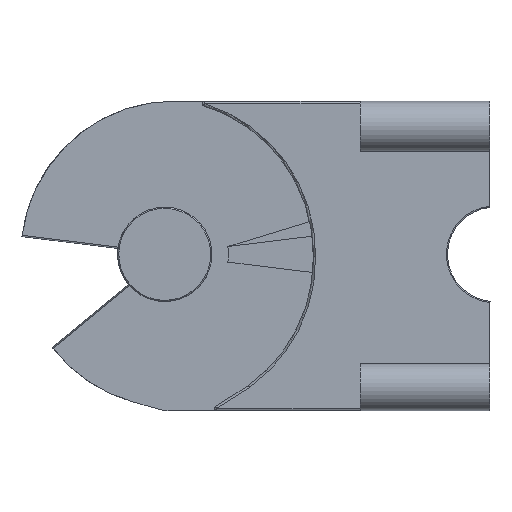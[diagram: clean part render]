
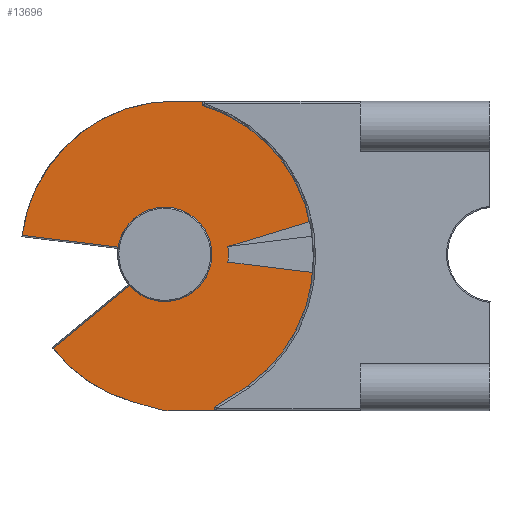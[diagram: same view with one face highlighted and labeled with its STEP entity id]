
A CAD part, left-side view. The second image highlights one B-rep face of the part: STEP entity #13696.
In plain terms, the highlighted free-form (B-spline) face has degree [1, 1] with [2, 2] control points.
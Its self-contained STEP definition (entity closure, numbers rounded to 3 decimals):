
#11969=CARTESIAN_POINT('',(98.837,139.468,75.028));
#11970=VERTEX_POINT('',#11969);
#11977=CARTESIAN_POINT('',(105.249,139.468,75.028));
#11978=VERTEX_POINT('',#11977);
#11979=CARTESIAN_POINT('',(105.249,139.468,75.028));
#11980=DIRECTION('',(-1.0,0.0,0.0));
#11981=VECTOR('',#11980,6.412);
#11982=LINE('',#11979,#11981);
#11983=EDGE_CURVE('',#11978,#11970,#11982,.T.);
#12123=CARTESIAN_POINT('',(66.588,167.937,75.028));
#12124=VERTEX_POINT('',#12123);
#12132=CARTESIAN_POINT('',(98.837,171.968,75.028));
#12133=DIRECTION('',(0.,0.,-1.0));
#12134=DIRECTION('',(0.993,0.114,0.));
#12135=AXIS2_PLACEMENT_3D('',#12132,#12133,#12134);
#12136=CIRCLE('',#12135,32.5);
#12137=EDGE_CURVE('',#11970,#12124,#12136,.T.);
#12149=CARTESIAN_POINT('',(86.954,170.438,75.028));
#12150=VERTEX_POINT('',#12149);
#12158=CARTESIAN_POINT('',(66.588,167.937,75.028));
#12159=DIRECTION('',(0.993,0.122,0.));
#12160=VECTOR('',#12159,20.52);
#12161=LINE('',#12158,#12160);
#12162=EDGE_CURVE('',#12124,#12150,#12161,.T.);
#12207=CARTESIAN_POINT('',(89.324,178.569,75.028));
#12208=VERTEX_POINT('',#12207);
#12216=CARTESIAN_POINT('',(96.837,171.968,75.028));
#12217=DIRECTION('',(0.0,0.0,-1.0));
#12218=DIRECTION('',(-1.0,0.0,0.0));
#12219=AXIS2_PLACEMENT_3D('',#12216,#12217,#12218);
#12220=CIRCLE('',#12219,10.0);
#12221=EDGE_CURVE('',#12208,#12150,#12220,.T.);
#12234=CARTESIAN_POINT('',(73.161,191.893,75.028));
#12235=VERTEX_POINT('',#12234);
#12243=CARTESIAN_POINT('',(89.324,178.569,75.028));
#12244=DIRECTION('',(-0.772,0.636,0.));
#12245=VECTOR('',#12244,20.948);
#12246=LINE('',#12243,#12245);
#12247=EDGE_CURVE('',#12208,#12235,#12246,.T.);
#12481=CARTESIAN_POINT('',(105.101,140.446,75.028));
#12482=VERTEX_POINT('',#12481);
#12489=CARTESIAN_POINT('',(128.337,171.968,75.028));
#12490=VERTEX_POINT('',#12489);
#12491=CARTESIAN_POINT('',(95.337,171.968,75.028));
#12492=DIRECTION('',(0.,0.,1.));
#12493=DIRECTION('',(0.296,-0.955,0.));
#12494=AXIS2_PLACEMENT_3D('',#12491,#12492,#12493);
#12495=CIRCLE('',#12494,33.);
#12496=EDGE_CURVE('',#12482,#12490,#12495,.T.);
#12535=CARTESIAN_POINT('',(105.249,139.968,75.028));
#12536=DIRECTION('',(0.,0.,-1.0));
#12537=DIRECTION('',(0.296,-0.955,0.));
#12538=AXIS2_PLACEMENT_3D('',#12535,#12536,#12537);
#12539=CIRCLE('',#12538,0.5);
#12540=EDGE_CURVE('',#11978,#12482,#12539,.T.);
#13502=CARTESIAN_POINT('',(128.069,168.133,75.028));
#13503=VERTEX_POINT('',#13502);
#13504=CARTESIAN_POINT('',(93.723,172.455,75.028));
#13505=DIRECTION('',(0.,0.,1.0));
#13506=DIRECTION('',(0.995,0.097,0.));
#13507=AXIS2_PLACEMENT_3D('',#13504,#13505,#13506);
#13508=CIRCLE('',#13507,34.617);
#13509=EDGE_CURVE('',#13503,#12490,#13508,.T.);
#13526=CARTESIAN_POINT('',(128.337,172.942,75.028));
#13527=VERTEX_POINT('',#13526);
#13535=CARTESIAN_POINT('',(128.176,175.816,75.028));
#13536=VERTEX_POINT('',#13535);
#13543=CARTESIAN_POINT('',(93.723,172.455,75.028));
#13544=DIRECTION('',(0.,0.,1.0));
#13545=DIRECTION('',(0.995,0.097,0.));
#13546=AXIS2_PLACEMENT_3D('',#13543,#13544,#13545);
#13547=CIRCLE('',#13546,34.617);
#13548=EDGE_CURVE('',#13527,#13536,#13547,.T.);
#13559=CARTESIAN_POINT('',(110.236,173.614,75.028));
#13560=VERTEX_POINT('',#13559);
#13567=CARTESIAN_POINT('',(128.176,175.816,75.028));
#13568=DIRECTION('',(-0.993,-0.122,0.));
#13569=VECTOR('',#13568,18.075);
#13570=LINE('',#13567,#13569);
#13571=EDGE_CURVE('',#13536,#13560,#13570,.T.);
#13583=CARTESIAN_POINT('',(110.236,170.323,75.028));
#13584=VERTEX_POINT('',#13583);
#13591=CARTESIAN_POINT('',(96.837,171.968,75.028));
#13592=DIRECTION('',(0.,0.,-1.0));
#13593=DIRECTION('',(-0.993,-0.122,0.));
#13594=AXIS2_PLACEMENT_3D('',#13591,#13592,#13593);
#13595=CIRCLE('',#13594,13.5);
#13596=EDGE_CURVE('',#13560,#13584,#13595,.T.);
#13609=CARTESIAN_POINT('',(110.236,170.323,75.028));
#13610=DIRECTION('',(0.993,-0.122,0.));
#13611=VECTOR('',#13610,17.967);
#13612=LINE('',#13609,#13611);
#13613=EDGE_CURVE('',#13584,#13503,#13612,.T.);
#13619=CARTESIAN_POINT('',(66.588,205.168,75.028));
#13620=CARTESIAN_POINT('',(128.337,205.168,75.028));
#13621=CARTESIAN_POINT('',(66.588,139.468,75.028));
#13622=CARTESIAN_POINT('',(128.337,139.468,75.028));
#13623=B_SPLINE_SURFACE_WITH_KNOTS('',1,1,((#13619,#13621),(#13620,#13622)),.UNSPECIFIED.,.F.,.F.,.U.,(2,2),(2,2),(0.0,61.749),(0.0,65.7),.UNSPECIFIED.);
#13624=ORIENTED_EDGE('',*,*,#13548,.T.);
#13625=ORIENTED_EDGE('',*,*,#13571,.T.);
#13626=ORIENTED_EDGE('',*,*,#13596,.T.);
#13627=ORIENTED_EDGE('',*,*,#13613,.T.);
#13628=ORIENTED_EDGE('',*,*,#13509,.T.);
#13629=ORIENTED_EDGE('',*,*,#12496,.F.);
#13630=ORIENTED_EDGE('',*,*,#12540,.F.);
#13631=ORIENTED_EDGE('',*,*,#11983,.T.);
#13632=ORIENTED_EDGE('',*,*,#12137,.T.);
#13633=ORIENTED_EDGE('',*,*,#12162,.T.);
#13634=ORIENTED_EDGE('',*,*,#12221,.F.);
#13635=ORIENTED_EDGE('',*,*,#12247,.T.);
#13636=CARTESIAN_POINT('',(90.031,203.253,75.028));
#13637=VERTEX_POINT('',#13636);
#13638=CARTESIAN_POINT('',(98.837,171.968,75.028));
#13639=DIRECTION('',(0.,0.,-1.0));
#13640=DIRECTION('',(0.271,-0.963,0.));
#13641=AXIS2_PLACEMENT_3D('',#13638,#13639,#13640);
#13642=CIRCLE('',#13641,32.5);
#13643=EDGE_CURVE('',#12235,#13637,#13642,.T.);
#13644=ORIENTED_EDGE('',*,*,#13643,.T.);
#13645=CARTESIAN_POINT('',(95.508,204.794,75.028));
#13646=VERTEX_POINT('',#13645);
#13647=CARTESIAN_POINT('',(90.031,203.253,75.028));
#13648=DIRECTION('',(0.963,0.271,0.));
#13649=VECTOR('',#13648,5.69);
#13650=LINE('',#13647,#13649);
#13651=EDGE_CURVE('',#13637,#13646,#13650,.T.);
#13652=ORIENTED_EDGE('',*,*,#13651,.T.);
#13653=CARTESIAN_POINT('',(98.217,205.168,75.028));
#13654=VERTEX_POINT('',#13653);
#13655=CARTESIAN_POINT('',(98.217,195.168,75.028));
#13656=DIRECTION('',(0.0,0.0,-1.0));
#13657=DIRECTION('',(0.0,-1.0,0.0));
#13658=AXIS2_PLACEMENT_3D('',#13655,#13656,#13657);
#13659=CIRCLE('',#13658,10.0);
#13660=EDGE_CURVE('',#13646,#13654,#13659,.T.);
#13661=ORIENTED_EDGE('',*,*,#13660,.T.);
#13662=CARTESIAN_POINT('',(107.835,205.168,75.028));
#13663=VERTEX_POINT('',#13662);
#13664=CARTESIAN_POINT('',(98.217,205.168,75.028));
#13665=DIRECTION('',(1.0,0.0,0.0));
#13666=VECTOR('',#13665,9.618);
#13667=LINE('',#13664,#13666);
#13668=EDGE_CURVE('',#13654,#13663,#13667,.T.);
#13669=ORIENTED_EDGE('',*,*,#13668,.T.);
#13670=CARTESIAN_POINT('',(107.566,204.247,75.028));
#13671=VERTEX_POINT('',#13670);
#13672=CARTESIAN_POINT('',(107.835,204.668,75.028));
#13673=DIRECTION('',(0.0,0.0,-1.0));
#13674=DIRECTION('',(0.0,-1.0,0.0));
#13675=AXIS2_PLACEMENT_3D('',#13672,#13673,#13674);
#13676=CIRCLE('',#13675,0.5);
#13677=EDGE_CURVE('',#13671,#13663,#13676,.T.);
#13678=ORIENTED_EDGE('',*,*,#13677,.F.);
#13679=CARTESIAN_POINT('',(114.561,199.79,75.028));
#13680=VERTEX_POINT('',#13679);
#13681=CARTESIAN_POINT('',(114.561,199.79,75.028));
#13682=DIRECTION('',(-0.843,0.537,0.));
#13683=VECTOR('',#13682,8.294);
#13684=LINE('',#13681,#13683);
#13685=EDGE_CURVE('',#13680,#13671,#13684,.T.);
#13686=ORIENTED_EDGE('',*,*,#13685,.F.);
#13687=CARTESIAN_POINT('',(95.337,172.968,75.028));
#13688=DIRECTION('',(0.0,0.0,1.0));
#13689=DIRECTION('',(1.0,0.0,0.0));
#13690=AXIS2_PLACEMENT_3D('',#13687,#13688,#13689);
#13691=CIRCLE('',#13690,33.);
#13692=EDGE_CURVE('',#13527,#13680,#13691,.T.);
#13693=ORIENTED_EDGE('',*,*,#13692,.F.);
#13694=EDGE_LOOP('',(#13624,#13625,#13626,#13627,#13628,#13629,#13630,#13631,#13632,#13633,#13634,#13635,#13644,#13652,#13661,#13669,#13678,#13686,#13693));
#13695=FACE_OUTER_BOUND('',#13694,.T.);
#13696=ADVANCED_FACE('',(#13695),#13623,.T.);
